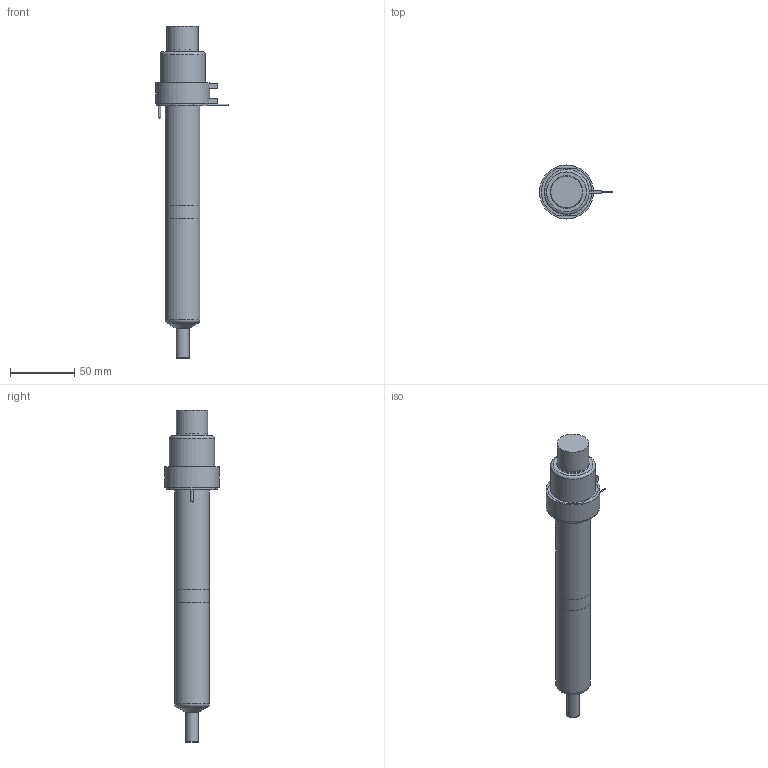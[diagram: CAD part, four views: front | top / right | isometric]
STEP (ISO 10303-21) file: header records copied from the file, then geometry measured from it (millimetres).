
FILE_DESCRIPTION(/* description */ (''),/* implementation_level */ '2;1');
FILE_NAME(/* name */ 'SXYCN13175P7U_200C_a',/* time_stamp */ '2016-03-07T10:00:36+13:00',/* author */ (''),/* organization */ (''),/* preprocessor_version */ 'ST-DEVELOPER v9',/* originating_system */ 'UGS - NX 4.0',/* authorisation */ '');
FILE_SCHEMA (('CONFIG_CONTROL_DESIGN'));
Length unit declared in the file: millimetre
Products named in the file (1): Matt0C2Fmxxd
Bounding box: 56.65 x 42 x 257.74 mm (x, y, z)
Volume: 268307.5 mm3; surface area: 47754.6 mm2
Topology: 7 solids, 7 shells, 91 faces, 175 edges, 112 vertices
Faces by surface type: plane 45, cylinder 29, torus 8, cone 7, bspline 1, sphere 1
Full cylindrical faces by diameter (mm): 1 x3, 1.2 x1, 2 x2, 4 x1, 6 x1, 9.61 x1, 9.995 x2, 12.6 x1, 22.2 x1, 24 x1, 24.4 x1, 27 x2, 31.8 x1, 35 x1, 40 x1, 42 x1
Entity records: 2230 total; most frequent: CARTESIAN_POINT 435, DIRECTION 378, ORIENTED_EDGE 266, AXIS2_PLACEMENT_3D 164, EDGE_LOOP 140, EDGE_CURVE 133, VERTEX_POINT 106, ADVANCED_FACE 91
